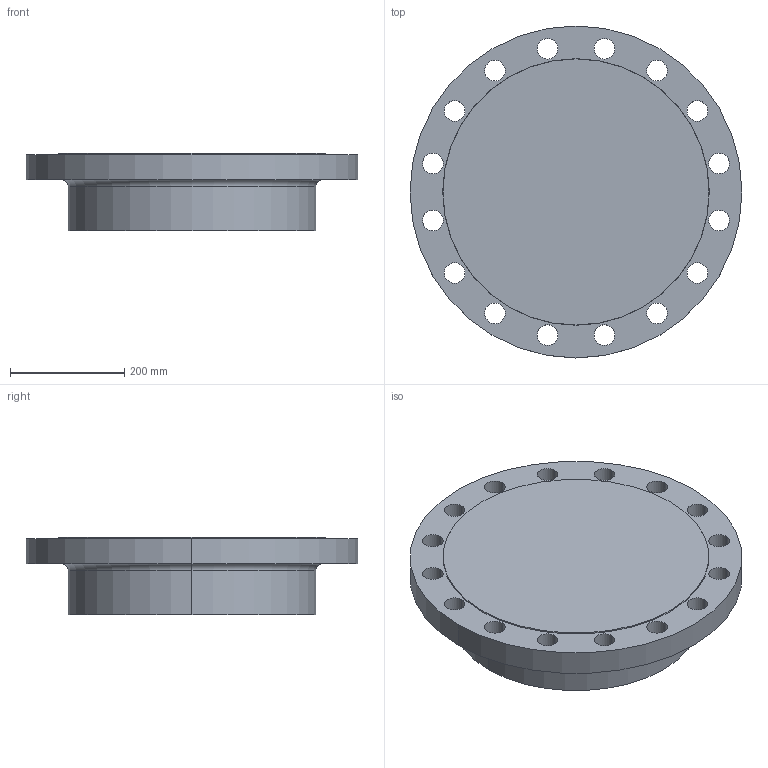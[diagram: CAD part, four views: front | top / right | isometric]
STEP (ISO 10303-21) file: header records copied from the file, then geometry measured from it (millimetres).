
FILE_DESCRIPTION (( 'STEP AP214' ), '1' );
FILE_NAME ('PN40 DN350 Type 21(i) - Type B Face.STEP', '2019-01-05T21:46:53', ( '' ), ( '' ), 'SwSTEP 2.0', 'SolidWorks 2019', '' );
FILE_SCHEMA (( 'AUTOMOTIVE_DESIGN' ));
Length unit declared in the file: millimetre
Products named in the file (1): PN40 DN350 Type 21(i) - Type B Face
Bounding box: 580 x 580 x 135 mm (x, y, z)
Volume: 24336285.2 mm3; surface area: 771953.3 mm2
Topology: 1 solids, 1 shells, 44 faces, 118 edges, 78 vertices
Faces by surface type: cylinder 36, plane 4, torus 2, cone 2
Entity records: 1524 total; most frequent: DIRECTION 288, CARTESIAN_POINT 241, ORIENTED_EDGE 236, AXIS2_PLACEMENT_3D 125, EDGE_CURVE 118, CIRCLE 80, VERTEX_POINT 78, EDGE_LOOP 78
